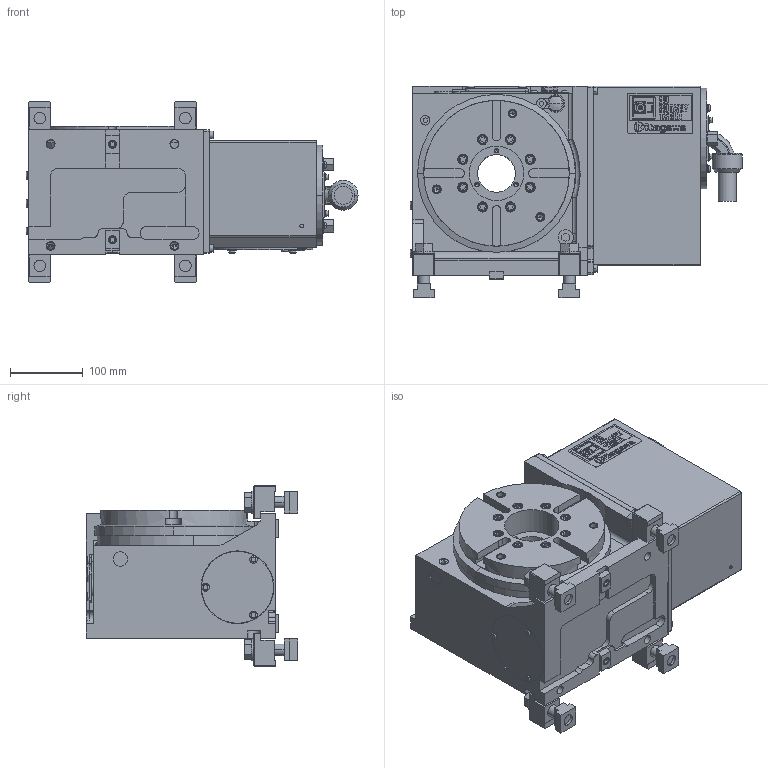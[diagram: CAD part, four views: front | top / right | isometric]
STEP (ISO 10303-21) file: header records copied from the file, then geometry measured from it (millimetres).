
FILE_DESCRIPTION (( 'STEP AP214' ), '1' );
FILE_NAME ('【掲載用】TMX200BV.STEP', '2019-11-08T00:22:03', ( '' ), ( '' ), 'SwSTEP 2.0', 'SolidWorks 2017', '' );
FILE_SCHEMA (( 'AUTOMOTIVE_DESIGN' ));
Length unit declared in the file: millimetre
Products named in the file (13): 僇僶乕俻(61E4516592)TMX250BE02; モータケース(61E2819230)TMX200BV00; TMX200B01僋儈僞僥(61E112128); テーブル(61E3647021)TM201H00; ベアリングプッシュプレート(61E336980); 儂儞僞僀ASSY(61E1121244)TMX200B01; 【掲載用】TMX200BV; CLAMPING PARTS(61E430436); TMX200BV00儂儞僞僀; キタガワシール; SMC KQ2E06-02; 働乕僽儖N29ZSZ2562; コネクタプレート(61E4463882)
Assembly tree (16 placements, depth 4):
  【掲載用】TMX200BV
    TMX200BV00儂儞僞僀
      TMX200B01僋儈僞僥(61E112128)
        儂儞僞僀ASSY(61E1121244)TMX200B01
        ベアリングプッシュプレート(61E336980)
        テーブル(61E3647021)TM201H00
      モータケース(61E2819230)TMX200BV00
      僇僶乕俻(61E4516592)TMX250BE02
      コネクタプレート(61E4463882)
      働乕僽儖N29ZSZ2562
      SMC KQ2E06-02  x2
      キタガワシール
    CLAMPING PARTS(61E430436)  x4
Bounding box: 456.3 x 291 x 249 mm (x, y, z)
Volume: 14887832.4 mm3; surface area: 931261.2 mm2
Topology: 14 solids, 14 shells, 3115 faces, 8164 edges, 5347 vertices
Faces by surface type: plane 2276, cylinder 647, cone 124, torus 54, bspline 8, sphere 6
Entity records: 101829 total; most frequent: CARTESIAN_POINT 16541, ORIENTED_EDGE 15428, DIRECTION 15073, EDGE_CURVE 7714, LINE 6179, VECTOR 6179, VERTEX_POINT 5087, AXIS2_PLACEMENT_3D 4447
